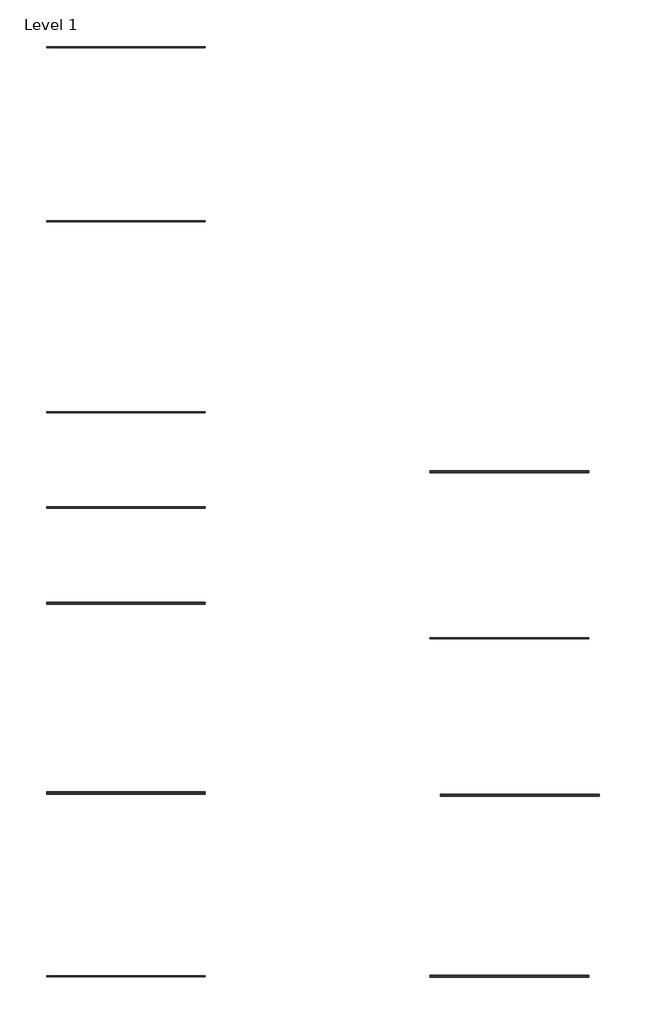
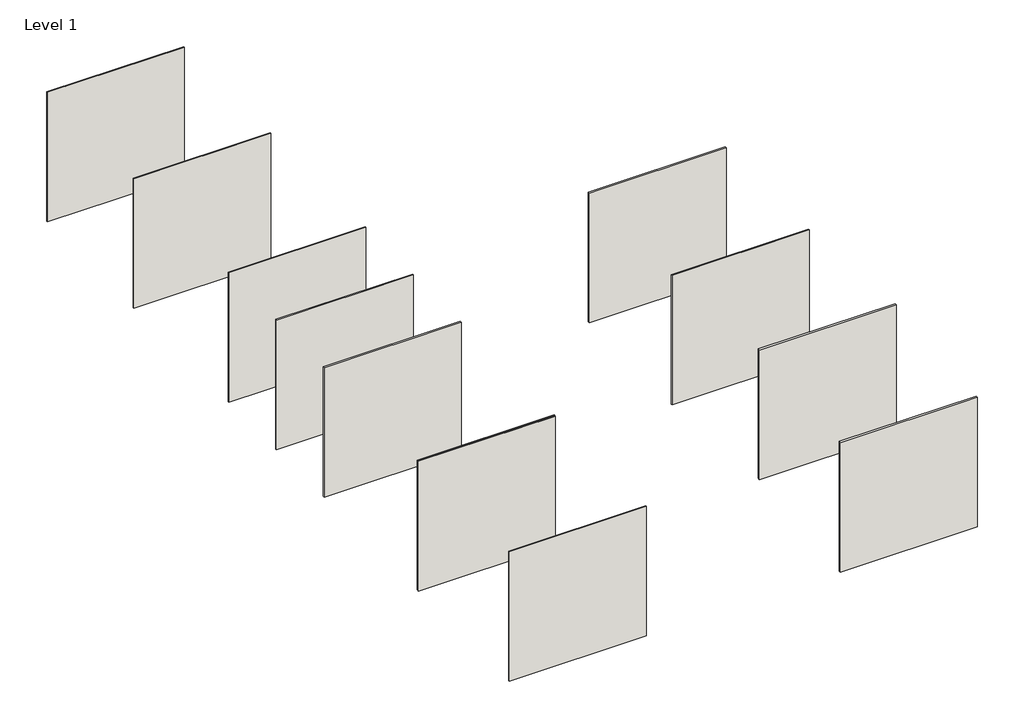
# One storey: 12 walls.
"""IFC4 building model written with IfcOpenShell, lengths in millimetres."""

from ifc_helpers import new_model, si_unit, origin, origin_with_axes, place, context, project, spatial, polyline, outline, extrude, element, save

model = new_model("IFC4")

# Units and contexts
model_context = context("Model", 3, world=origin())
ifc_project = project(units=[si_unit("LENGTHUNIT", "METRE", prefix="MILLI")], contexts=[model_context])

# Site, building, storey
site = spatial("IfcSite", under=ifc_project)
building = spatial("IfcBuilding", under=site)
storey = spatial("IfcBuildingStorey", under=building, Name="Level 1", Elevation=0.0)

# Walls
placement = place(None, origin())
element("IfcWall", 1, ObjectType="Wood Siding - Thermory - Ash Cladding 20x52 C4J - Smooth", at=placement, inside=storey, context=model_context, shape_type="SweptSolid", body=[
    extrude(outline(polyline([(2887.789273, -1241.6773001), (-160.210727, -1241.6773001), (-160.210727, -1221.6773001), (2887.789273, -1221.6773001), (2887.789273, -1241.6773001)])), origin_with_axes(), (0.0, 0.0, 1.0), 3048.0),
])
element("IfcWall", 2, ObjectType="Wood Siding - Thermory - Ash Cladding 20x52 C7J - Smooth", at=placement, inside=storey, context=model_context, shape_type="SweptSolid", body=[
    extrude(outline(polyline([(2887.789273, -1212.8773001), (-160.210727, -1212.8773001), (-160.210727, -1192.8773001), (2887.789273, -1192.8773001), (2887.789273, -1212.8773001)])), origin_with_axes(), (0.0, 0.0, 1.0), 3048.0),
])
element("IfcWall", 3, ObjectType="Wood Siding - Thermory - Ash Cladding 42x42 C4J - Smooth", at=placement, inside=storey, context=model_context, shape_type="SweptSolid", body=[
    extrude(outline(polyline([(2887.789273, 2393.9226999), (-160.210727, 2393.9226999), (-160.210727, 2435.9226999), (2887.789273, 2435.9226999), (2887.789273, 2393.9226999)])), origin_with_axes(), (0.0, 0.0, 1.0), 3048.0),
])
element("IfcWall", 4, ObjectType="Wood Siding - Thermory - Ash Cladding 26x52 C7J - Smooth", at=placement, inside=storey, context=model_context, shape_type="SweptSolid", body=[
    extrude(outline(polyline([(2887.789273, 4238.7226999), (-160.210727, 4238.7226999), (-160.210727, 4264.7226999), (2887.789273, 4264.7226999), (2887.789273, 4238.7226999)])), origin_with_axes(), (0.0, 0.0, 1.0), 3048.0),
])
element("IfcWall", 5, ObjectType="Wood Siding - Thermory - Ash Cladding 20x155 C6 - Smooth", at=placement, inside=storey, context=model_context, shape_type="SweptSolid", body=[
    extrude(outline(polyline([(2887.789273, 6073.5226999), (-160.210727, 6073.5226999), (-160.210727, 6093.5226999), (2887.789273, 6093.5226999), (2887.789273, 6073.5226999)])), origin_with_axes(), (0.0, 0.0, 1.0), 3048.0),
])
element("IfcWall", 6, ObjectType="Wood Siding - Thermory - Ash Cladding 20x132 C6 - Smooth", at=placement, inside=storey, context=model_context, shape_type="SweptSolid", body=[
    extrude(outline(polyline([(2887.789273, 9731.1226998), (-160.210727, 9731.1226998), (-160.210727, 9751.1226998), (2887.789273, 9751.1226998), (2887.789273, 9731.1226998)])), origin_with_axes(), (0.0, 0.0, 1.0), 3045.6255201),
])
element("IfcWall", 7, ObjectType="Wood Siding - Thermory - Ash Cladding 20x155 C25 - Smooth", at=placement, inside=storey, context=model_context, shape_type="SweptSolid", body=[
    extrude(outline(polyline([(2887.789273, 13072.9676999), (-160.210727, 13072.9676999), (-160.210727, 13092.9676999), (2887.789273, 13092.9676999), (2887.789273, 13072.9676999)])), origin_with_axes(), (0.0, 0.0, 1.0), 3048.0),
])
element("IfcWall", 8, ObjectType="Wood Siding - Thermory - Ash Cladding 20x150 C23J - Smooth", at=placement, inside=storey, context=model_context, shape_type="SweptSolid", body=[
    extrude(outline(polyline([(2887.789273, -4746.9103001), (-160.210727, -4746.9103001), (-160.210727, -4726.9103001), (2887.789273, -4726.9103001), (2887.789273, -4746.9103001)])), origin_with_axes(), (0.0, 0.0, 1.0), 3048.0),
])
element("IfcWall", 9, ObjectType="Wood Siding - Thermory - Ash Cladding 42x42 D4 - Smooth", at=placement, inside=storey, context=model_context, shape_type="SweptSolid", body=[
    extrude(outline(polyline([(10246.7804348, -4757.9103001), (7198.7804348, -4757.9103001), (7198.7804348, -4715.9103001), (10246.7804348, -4715.9103001), (10246.7804348, -4757.9103001)])), origin_with_axes(), (0.0, 0.0, 1.0), 3048.0),
])
element("IfcWall", 10, ObjectType="Wood Siding - Thermory - Ash Cladding 42x90 D4 - Smooth", at=placement, inside=storey, context=model_context, shape_type="SweptSolid", body=[
    extrude(outline(polyline([(10446.7804348, -1283.6773001), (7398.7804348, -1283.6773001), (7398.7804348, -1241.6773001), (10446.7804348, -1241.6773001), (10446.7804348, -1283.6773001)])), origin_with_axes(), (0.0, 0.0, 1.0), 3048.0),
])
element("IfcWall", 11, ObjectType="Wood Siding - Thermory - Ash Cladding 26x160 D4 - Smooth", at=placement, inside=storey, context=model_context, shape_type="SweptSolid", body=[
    extrude(outline(polyline([(10246.7804348, 1732.3226999), (7198.7804348, 1732.3226999), (7198.7804348, 1758.3226999), (10246.7804348, 1758.3226999), (10246.7804348, 1732.3226999)])), origin_with_axes(), (0.0, 0.0, 1.0), 3048.0),
])
element("IfcWall", 12, ObjectType="Wood Siding - Thermory - Ash Cladding 42x140 D4 - Smooth", at=placement, inside=storey, context=model_context, shape_type="SweptSolid", body=[
    extrude(outline(polyline([(10246.7804348, 4916.3226999), (7198.7804348, 4916.3226999), (7198.7804348, 4958.3226999), (10246.7804348, 4958.3226999), (10246.7804348, 4916.3226999)])), origin_with_axes(), (0.0, 0.0, 1.0), 3048.0),
])

save(model, "model.ifc")
